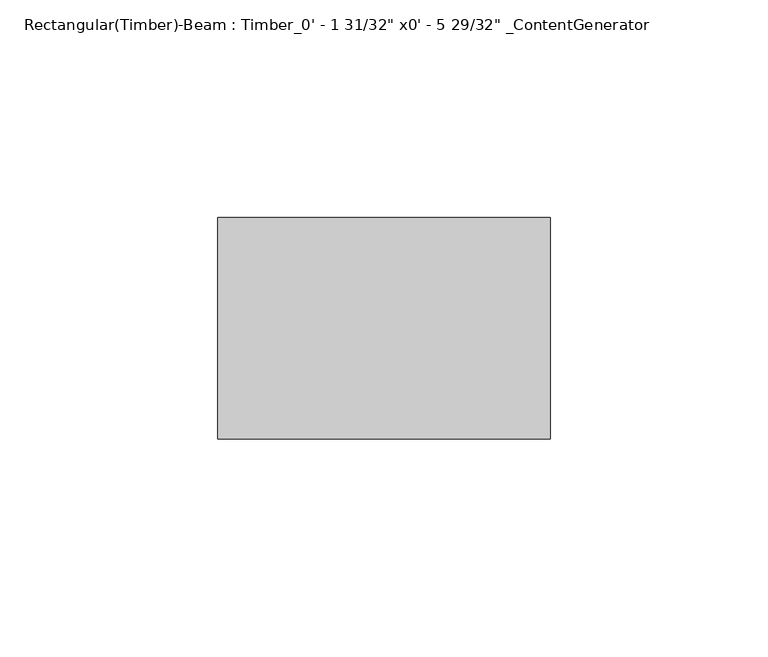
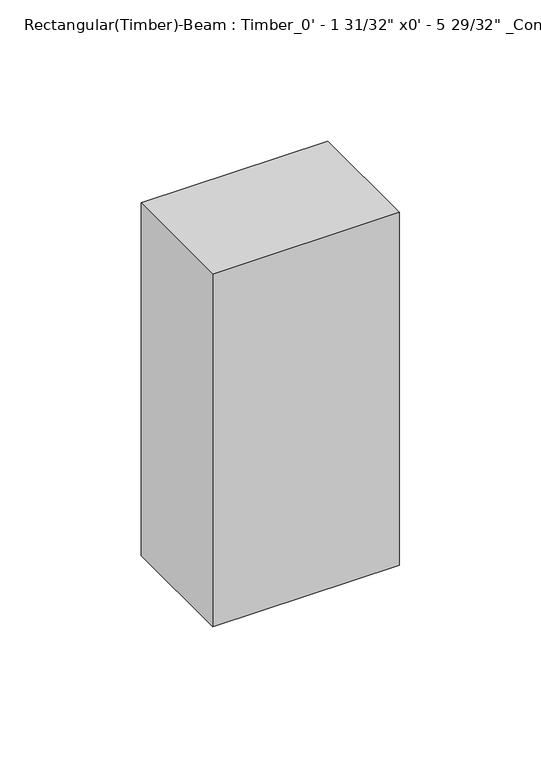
"""IFC4 building model written with IfcOpenShell, lengths in millimetres: beam geometry."""

from ifc_helpers import new_model, si_unit, frame, origin, place, context, project, spatial, polyline, outline, extrude, source, transform, mapped, element, save


def beam_c7d5a1a4(model_context):
    return source(origin(), model_context, "Body", "SweptSolid", [
        extrude(outline(polyline([(38.095, 25.4), (38.095, -25.4), (-38.095, -25.4), (-38.095, 25.4), (38.095, 25.4)])), frame((0.0, 0.0, -76.2), z_axis=(0.0, 0.0, 1.0), x_axis=(1.0, 0.0, 0.0)), (0.0, 0.0, 1.0), 152.4),
    ])


if __name__ == "__main__":
    model = new_model("IFC4")
    model_context = context("Model", 3, world=origin())
    ifc_project = project(units=[si_unit("LENGTHUNIT", "METRE", prefix="MILLI")], contexts=[model_context])
    site = spatial("IfcSite", under=ifc_project)
    building = spatial("IfcBuilding", under=site)
    placement = place(None, origin())
    beam_shape = beam_c7d5a1a4(model_context)
    element("IfcBeam", 1, ObjectType="Rectangular(Timber)-Beam : Timber_0' - 1 31/32\" x0' - 5 29/32\" _ContentGenerator", at=placement, inside=building, context=model_context, shape_type="MappedRepresentation", body=[
        mapped(beam_shape, transform((0.0, 0.0, 0.0), x_axis=(1.0, 0.0, 0.0), y_axis=(0.0, 1.0, 0.0), z_axis=(0.0, 0.0, 1.0))),
    ])
    save(model, "model.ifc")
